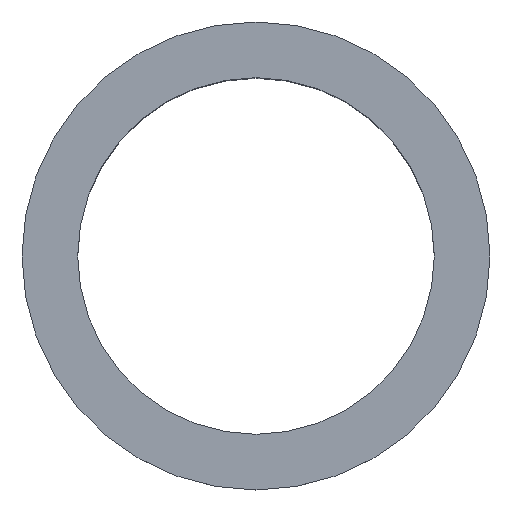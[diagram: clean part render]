
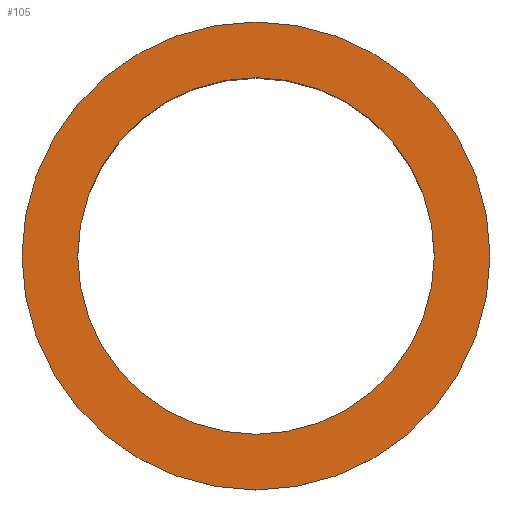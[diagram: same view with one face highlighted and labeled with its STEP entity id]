
A CAD part, top view. The second image highlights one B-rep face of the part: STEP entity #105.
In plain terms, the highlighted planar face has unit normal (0, 0, 1).
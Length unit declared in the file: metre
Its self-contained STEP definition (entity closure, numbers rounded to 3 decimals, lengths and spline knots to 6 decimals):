
#13=PLANE('',#131);
#23=ORIENTED_EDGE('',*,*,#39,.F.);
#24=ORIENTED_EDGE('',*,*,#38,.T.);
#38=EDGE_CURVE('',#47,#47,#56,.T.);
#39=EDGE_CURVE('',#48,#48,#57,.T.);
#47=VERTEX_POINT('',#191);
#48=VERTEX_POINT('',#194);
#56=CIRCLE('',#130,0.02625);
#57=CIRCLE('',#132,0.02);
#68=EDGE_LOOP('',(#23));
#69=EDGE_LOOP('',(#24));
#86=FACE_BOUND('',#68,.T.);
#87=FACE_BOUND('',#69,.T.);
#105=ADVANCED_FACE('',(#86,#87),#13,.F.);
#130=AXIS2_PLACEMENT_3D('',#190,#156,#157);
#131=AXIS2_PLACEMENT_3D('',#192,#158,#159);
#132=AXIS2_PLACEMENT_3D('',#193,#160,#161);
#156=DIRECTION('',(0.,0.,1.));
#157=DIRECTION('',(1.,0.,0.));
#158=DIRECTION('',(0.,0.,-1.));
#159=DIRECTION('',(-1.,0.,0.));
#160=DIRECTION('',(0.,0.,1.));
#161=DIRECTION('',(1.,0.,0.));
#190=CARTESIAN_POINT('',(-0.000011,0.,0.00305));
#191=CARTESIAN_POINT('',(0.026239,0.,0.00305));
#192=CARTESIAN_POINT('',(0.023114,0.,0.00305));
#193=CARTESIAN_POINT('',(-0.000011,0.,0.00305));
#194=CARTESIAN_POINT('',(0.019989,0.,0.00305));
